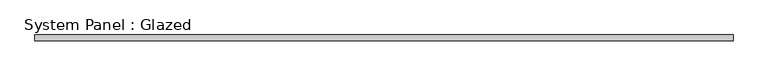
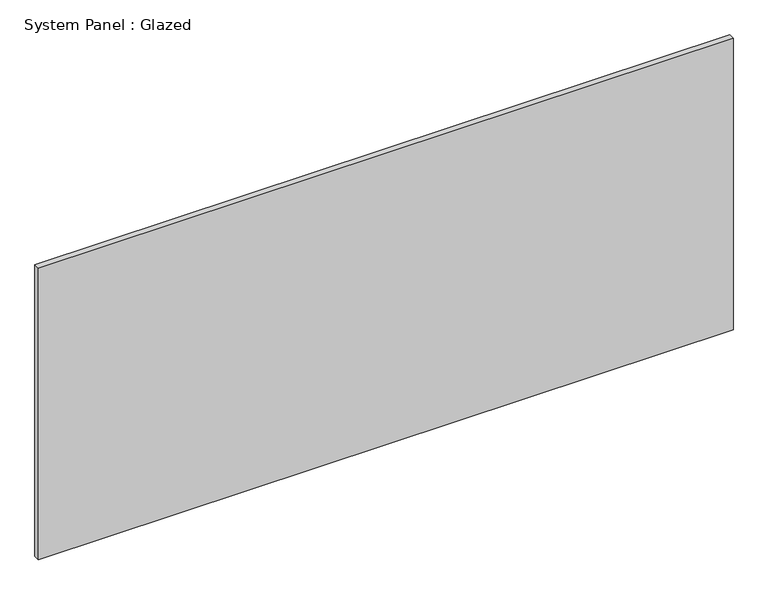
"""IFC4 building model written with IfcOpenShell, lengths in millimetres: plate geometry, System Panel : Glazed."""

from ifc_helpers import new_model, si_unit, origin, origin_with_axes, place, context, project, spatial, polyline, outline, extrude, source, transform, mapped, element, save


def system_panel_glazed_cb2f4e5a(model_context):
    return source(origin(), model_context, "Body", "SweptSolid", [
        extrude(outline(polyline([(1049.75, -9.0), (-1049.75, -9.0), (-1049.75, 9.0), (1049.75, 9.0), (1049.75, -9.0)])), origin_with_axes(), (0.0, 0.0, 1.0), 931.3333333),
    ])


if __name__ == "__main__":
    model = new_model("IFC4")
    model_context = context("Model", 3, world=origin())
    ifc_project = project(units=[si_unit("LENGTHUNIT", "METRE", prefix="MILLI")], contexts=[model_context])
    site = spatial("IfcSite", under=ifc_project)
    building = spatial("IfcBuilding", under=site)
    placement = place(None, origin())
    system_panel_glazed_shape = system_panel_glazed_cb2f4e5a(model_context)
    element("IfcPlate", 1, ObjectType="System Panel : Glazed", at=placement, inside=building, context=model_context, shape_type="MappedRepresentation", body=[
        mapped(system_panel_glazed_shape, transform((0.0, 0.0, 0.0), x_axis=(1.0, 0.0, 0.0), y_axis=(0.0, 1.0, 0.0), z_axis=(0.0, 0.0, 1.0))),
    ])
    save(model, "model.ifc")
